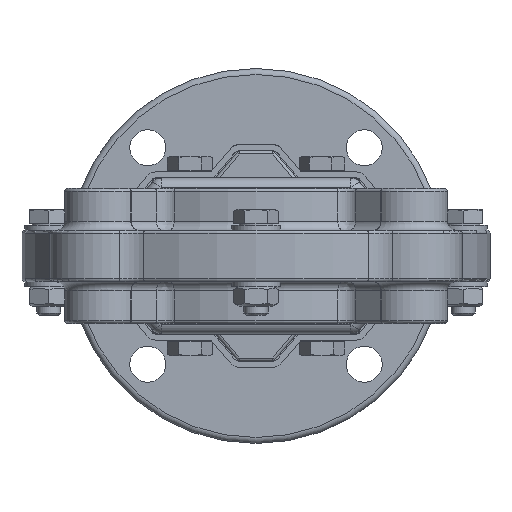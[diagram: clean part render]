
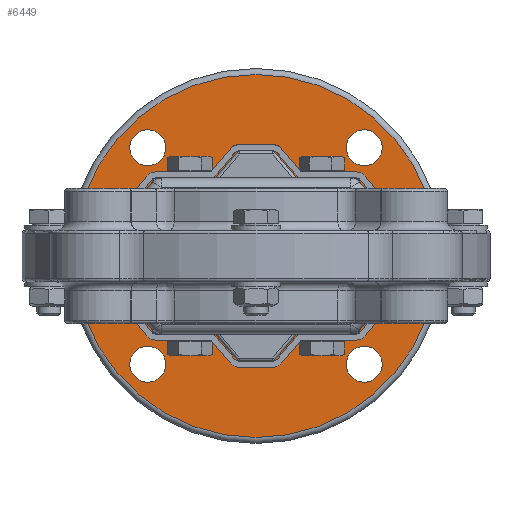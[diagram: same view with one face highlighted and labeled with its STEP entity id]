
A CAD part, front view. The second image highlights one B-rep face of the part: STEP entity #6449.
In plain terms, the highlighted planar face has unit normal (0, -1, 0).
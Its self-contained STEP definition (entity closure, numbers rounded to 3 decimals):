
#6449=ADVANCED_FACE('',(#8067,#8068,#8069,#8070,#8071,#8072,#8073,#8074,
#8075,#8076),#7367,.T.);
#7367=PLANE('',#35684);
#8067=FACE_BOUND('',#10365,.T.);
#8068=FACE_BOUND('',#10366,.T.);
#8069=FACE_BOUND('',#10367,.T.);
#8070=FACE_BOUND('',#10368,.T.);
#8071=FACE_BOUND('',#10369,.T.);
#8072=FACE_BOUND('',#10370,.T.);
#8073=FACE_BOUND('',#10371,.T.);
#8074=FACE_BOUND('',#10372,.T.);
#8075=FACE_BOUND('',#10373,.T.);
#8076=FACE_BOUND('',#10374,.T.);
#10365=EDGE_LOOP('',(#20507));
#10366=EDGE_LOOP('',(#20508));
#10367=EDGE_LOOP('',(#20509));
#10368=EDGE_LOOP('',(#20510));
#10369=EDGE_LOOP('',(#20511));
#10370=EDGE_LOOP('',(#20512));
#10371=EDGE_LOOP('',(#20513));
#10372=EDGE_LOOP('',(#20514));
#10373=EDGE_LOOP('',(#20515));
#10374=EDGE_LOOP('',(#20516));
#11853=CIRCLE('',#35674,4.5);
#11854=CIRCLE('',#35675,4.5);
#11855=CIRCLE('',#35676,4.5);
#11856=CIRCLE('',#35677,4.5);
#11857=CIRCLE('',#35678,6.);
#11858=CIRCLE('',#35679,6.);
#11859=CIRCLE('',#35680,6.);
#11860=CIRCLE('',#35681,6.);
#11861=CIRCLE('',#35682,27.);
#11862=CIRCLE('',#35683,60.5);
#20507=ORIENTED_EDGE('',*,*,#28607,.T.);
#20508=ORIENTED_EDGE('',*,*,#28608,.T.);
#20509=ORIENTED_EDGE('',*,*,#28609,.F.);
#20510=ORIENTED_EDGE('',*,*,#28610,.F.);
#20511=ORIENTED_EDGE('',*,*,#28611,.F.);
#20512=ORIENTED_EDGE('',*,*,#28612,.F.);
#20513=ORIENTED_EDGE('',*,*,#28613,.F.);
#20514=ORIENTED_EDGE('',*,*,#28614,.F.);
#20515=ORIENTED_EDGE('',*,*,#28615,.T.);
#20516=ORIENTED_EDGE('',*,*,#28616,.T.);
#24121=VERTEX_POINT('',#61429);
#24122=VERTEX_POINT('',#61431);
#24123=VERTEX_POINT('',#61433);
#24124=VERTEX_POINT('',#61435);
#24125=VERTEX_POINT('',#61437);
#24126=VERTEX_POINT('',#61439);
#24127=VERTEX_POINT('',#61441);
#24128=VERTEX_POINT('',#61443);
#24129=VERTEX_POINT('',#61445);
#24130=VERTEX_POINT('',#61447);
#28607=EDGE_CURVE('',#24121,#24121,#11853,.T.);
#28608=EDGE_CURVE('',#24122,#24122,#11854,.T.);
#28609=EDGE_CURVE('',#24123,#24123,#11855,.T.);
#28610=EDGE_CURVE('',#24124,#24124,#11856,.T.);
#28611=EDGE_CURVE('',#24125,#24125,#11857,.T.);
#28612=EDGE_CURVE('',#24126,#24126,#11858,.T.);
#28613=EDGE_CURVE('',#24127,#24127,#11859,.T.);
#28614=EDGE_CURVE('',#24128,#24128,#11860,.T.);
#28615=EDGE_CURVE('',#24129,#24129,#11861,.T.);
#28616=EDGE_CURVE('',#24130,#24130,#11862,.T.);
#35674=AXIS2_PLACEMENT_3D('',#61428,#43407,#43408);
#35675=AXIS2_PLACEMENT_3D('',#61430,#43409,#43410);
#35676=AXIS2_PLACEMENT_3D('',#61432,#43411,#43412);
#35677=AXIS2_PLACEMENT_3D('',#61434,#43413,#43414);
#35678=AXIS2_PLACEMENT_3D('',#61436,#43415,#43416);
#35679=AXIS2_PLACEMENT_3D('',#61438,#43417,#43418);
#35680=AXIS2_PLACEMENT_3D('',#61440,#43419,#43420);
#35681=AXIS2_PLACEMENT_3D('',#61442,#43421,#43422);
#35682=AXIS2_PLACEMENT_3D('',#61444,#43423,#43424);
#35683=AXIS2_PLACEMENT_3D('',#61446,#43425,#43426);
#35684=AXIS2_PLACEMENT_3D('',#61448,#43427,#43428);
#43407=DIRECTION('',(0.,1.,0.));
#43408=DIRECTION('',(0.,0.,1.));
#43409=DIRECTION('',(0.,1.,0.));
#43410=DIRECTION('',(1.,0.,0.));
#43411=DIRECTION('',(0.,-1.,0.));
#43412=DIRECTION('',(0.,0.,-1.));
#43413=DIRECTION('',(0.,-1.,0.));
#43414=DIRECTION('',(0.,0.,-1.));
#43415=DIRECTION('',(0.,-1.,0.));
#43416=DIRECTION('',(0.,0.,-1.));
#43417=DIRECTION('',(0.,-1.,0.));
#43418=DIRECTION('',(0.,0.,-1.));
#43419=DIRECTION('',(0.,-1.,0.));
#43420=DIRECTION('',(0.,0.,-1.));
#43421=DIRECTION('',(0.,-1.,0.));
#43422=DIRECTION('',(0.,0.,-1.));
#43423=DIRECTION('',(0.,1.,0.));
#43424=DIRECTION('',(0.,0.,-1.));
#43425=DIRECTION('',(0.,-1.,0.));
#43426=DIRECTION('',(0.,0.,-1.));
#43427=DIRECTION('',(0.,-1.,0.));
#43428=DIRECTION('',(0.,0.,-1.));
#61428=CARTESIAN_POINT('',(-24.749,296.,24.749));
#61429=CARTESIAN_POINT('',(-24.749,296.,29.249));
#61430=CARTESIAN_POINT('',(24.749,296.,24.749));
#61431=CARTESIAN_POINT('',(29.249,296.,24.749));
#61432=CARTESIAN_POINT('',(24.749,296.,-24.749));
#61433=CARTESIAN_POINT('',(24.749,296.,-29.249));
#61434=CARTESIAN_POINT('',(-24.749,296.,-24.749));
#61435=CARTESIAN_POINT('',(-24.749,296.,-29.249));
#61436=CARTESIAN_POINT('',(-36.062,296.,36.062));
#61437=CARTESIAN_POINT('',(-36.062,296.,30.062));
#61438=CARTESIAN_POINT('',(36.062,296.,36.062));
#61439=CARTESIAN_POINT('',(36.062,296.,30.062));
#61440=CARTESIAN_POINT('',(-36.062,296.,-36.062));
#61441=CARTESIAN_POINT('',(-36.062,296.,-42.062));
#61442=CARTESIAN_POINT('',(36.062,296.,-36.062));
#61443=CARTESIAN_POINT('',(36.062,296.,-42.062));
#61444=CARTESIAN_POINT('',(0.,296.,0.));
#61445=CARTESIAN_POINT('',(0.,296.,-27.));
#61446=CARTESIAN_POINT('',(0.,296.,0.));
#61447=CARTESIAN_POINT('',(0.,296.,-60.5));
#61448=CARTESIAN_POINT('',(0.,296.,0.));
